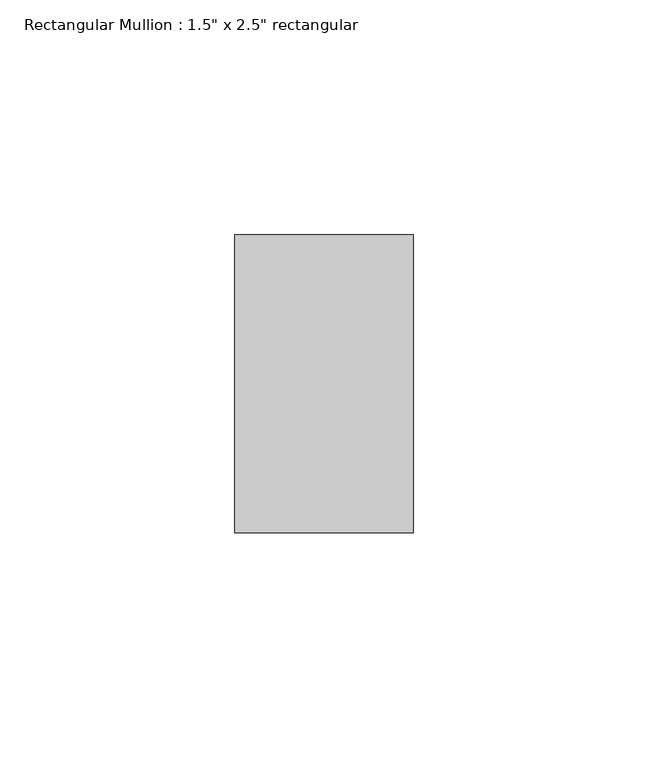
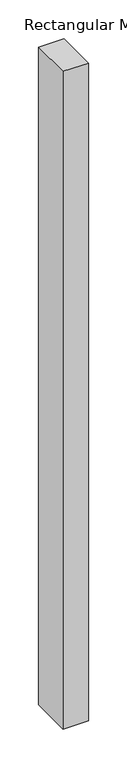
"""IFC4 building model written with IfcOpenShell, lengths in millimetres: member geometry."""

from ifc_helpers import new_model, si_unit, frame, origin, place, context, project, spatial, polyline, outline, extrude, source, transform, mapped, element, save


def member_d86648b7(model_context):
    return source(origin(), model_context, "Body", "SweptSolid", [
        extrude(outline(polyline([(19.05, 31.75), (19.05, -31.75), (-19.05, -31.75), (-19.05, 31.75), (19.05, 31.75)])), frame((0.0, 0.0, -1038.7193103), z_axis=(0.0, 0.0, 1.0), x_axis=(1.0, 0.0, 0.0)), (0.0, 0.0, 1.0), 1038.7193103),
    ])


if __name__ == "__main__":
    model = new_model("IFC4")
    model_context = context("Model", 3, world=origin())
    ifc_project = project(units=[si_unit("LENGTHUNIT", "METRE", prefix="MILLI")], contexts=[model_context])
    site = spatial("IfcSite", under=ifc_project)
    building = spatial("IfcBuilding", under=site)
    placement = place(None, origin())
    member_shape = member_d86648b7(model_context)
    element("IfcMember", 1, ObjectType="Rectangular Mullion : 1.5\" x 2.5\" rectangular", at=placement, inside=building, context=model_context, shape_type="MappedRepresentation", body=[
        mapped(member_shape, transform((0.0, 0.0, 0.0), x_axis=(1.0, 0.0, 0.0), y_axis=(0.0, 1.0, 0.0), z_axis=(0.0, 0.0, 1.0))),
    ])
    save(model, "model.ifc")
